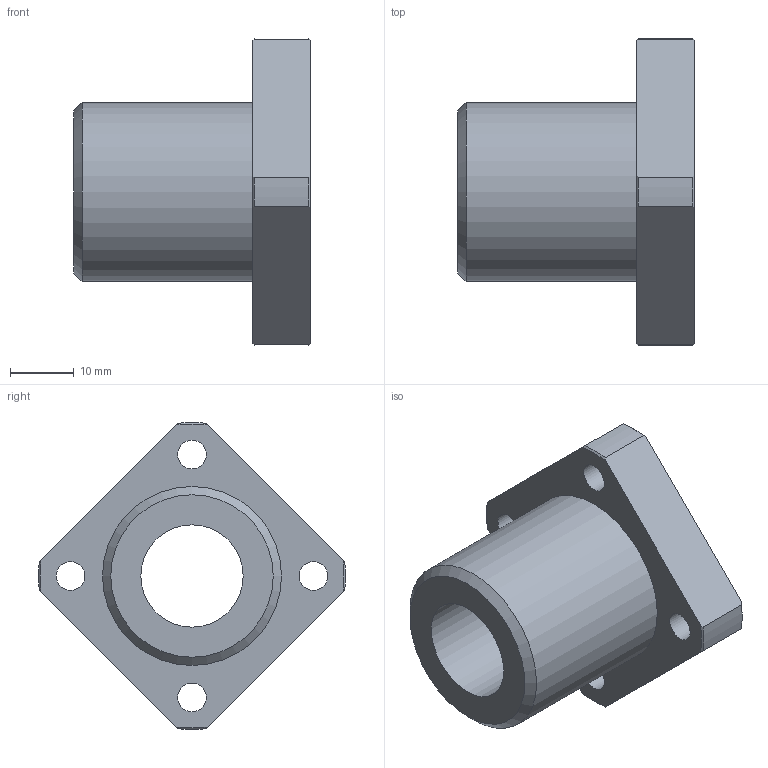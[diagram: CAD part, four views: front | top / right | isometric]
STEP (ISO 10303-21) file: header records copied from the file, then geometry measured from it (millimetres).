
FILE_DESCRIPTION(('STEP AP203'),'1');
FILE_NAME('//192.168.1.1/share/s-4 技術開発/s-4-4_CAD/s-4-4-3_見直し済み/PBC LINEAR修正済み/3D途中/SFPJ/SFPJ/SFPJ16.step','2022-03-24T05:52:09',(' '),(' '),'Spatial InterOp 3D',' ',' ');
FILE_SCHEMA(('CONFIG_CONTROL_DESIGN'));
Length unit declared in the file: millimetre
Products named in the file (1): 1
Bounding box: 37 x 47.98 x 47.98 mm (x, y, z)
Volume: 20839.4 mm3; surface area: 8345.7 mm2
Topology: 1 solids, 1 shells, 34 faces, 83 edges, 56 vertices
Faces by surface type: cylinder 14, plane 11, cone 9
Full cylindrical faces by diameter (mm): 4.5 x4, 7.5 x4, 16 x1, 28 x1
Entity records: 1018 total; most frequent: CARTESIAN_POINT 205, DIRECTION 160, ORIENTED_EDGE 138, AXIS2_PLACEMENT_3D 72, EDGE_CURVE 69, EDGE_LOOP 60, VERTEX_POINT 53, FACE_OUTER_BOUND 44
